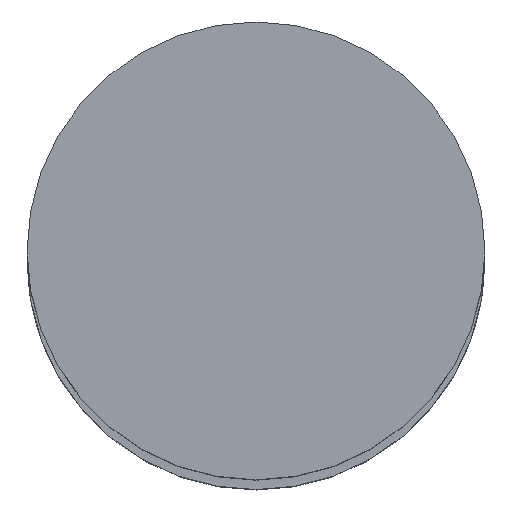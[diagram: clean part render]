
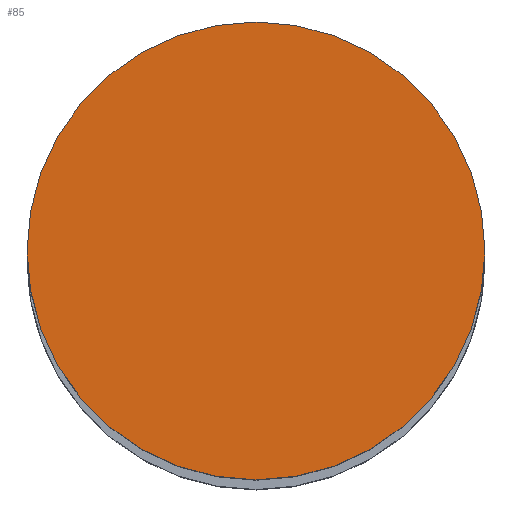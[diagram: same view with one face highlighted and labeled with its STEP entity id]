
A CAD part, top view. The second image highlights one B-rep face of the part: STEP entity #85.
In plain terms, the highlighted planar face has unit normal (0, 0, 1).
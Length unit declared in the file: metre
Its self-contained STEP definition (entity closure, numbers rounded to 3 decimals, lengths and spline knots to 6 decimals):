
#85=ADVANCED_FACE('56:4857',(#165),#166,.F.);
#165=FACE_OUTER_BOUND('',#244,.T.);
#166=PLANE('',#245);
#244=EDGE_LOOP('',(#390,#391));
#245=AXIS2_PLACEMENT_3D('',#392,#393,#394);
#390=ORIENTED_EDGE('',*,*,#433,.F.);
#391=ORIENTED_EDGE('',*,*,#478,.F.);
#392=CARTESIAN_POINT('',(-0.000092,0.000095,3.114));
#393=DIRECTION('',(0.0,0.0,-1.0));
#394=DIRECTION('',(1.0,0.0,0.0));
#433=EDGE_CURVE('27:1418',#505,#501,#507,.T.);
#478=EDGE_CURVE('',#501,#505,#572,.T.);
#501=VERTEX_POINT('',#607);
#505=VERTEX_POINT('',#612);
#507=CIRCLE('',#615,0.0155);
#572=CIRCLE('',#694,0.0155);
#607=CARTESIAN_POINT('',(0.015408,0.000095,3.114));
#612=CARTESIAN_POINT('',(-0.015592,0.000095,3.114));
#615=AXIS2_PLACEMENT_3D('',#736,#737,#738);
#694=AXIS2_PLACEMENT_3D('',#801,#802,#803);
#736=CARTESIAN_POINT('',(-0.000092,0.000095,3.114));
#737=DIRECTION('',(0.0,0.0,-1.0));
#738=DIRECTION('',(1.0,0.0,0.0));
#801=CARTESIAN_POINT('',(-0.000092,0.000095,3.114));
#802=DIRECTION('',(0.0,0.0,-1.0));
#803=DIRECTION('',(1.0,0.0,0.0));
